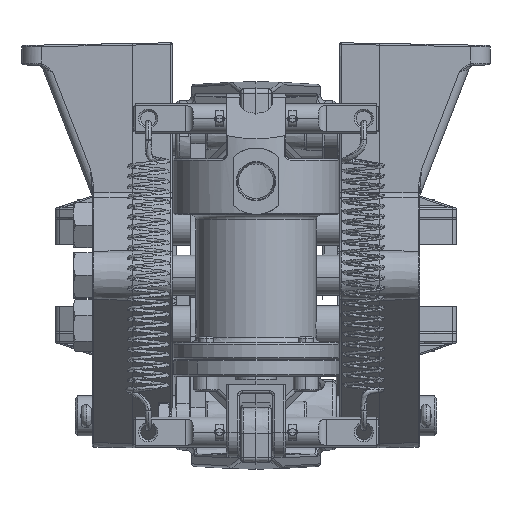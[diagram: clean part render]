
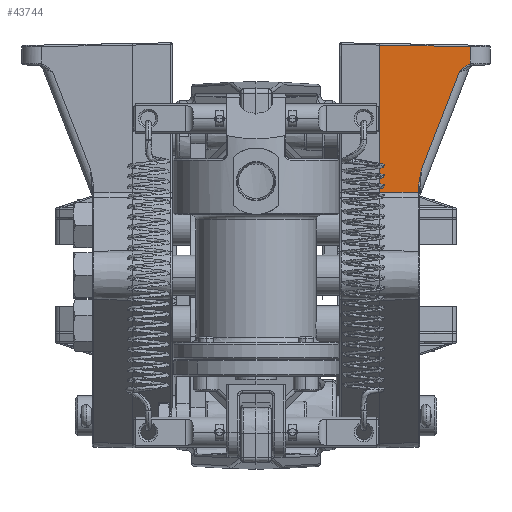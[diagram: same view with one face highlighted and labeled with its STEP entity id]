
A CAD part, left-side view. The second image highlights one B-rep face of the part: STEP entity #43744.
In plain terms, the highlighted planar face has unit normal (-1, -0.018, 0).
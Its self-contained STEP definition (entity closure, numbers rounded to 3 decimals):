
#966 = B_SPLINE_CURVE_WITH_KNOTS ( 'NONE', 3,
 ( #91661, #101147, #92825, #110582, #29286, #32805, #69024, #112355 ),
 .UNSPECIFIED., .F., .F.,
 ( 4, 2, 2, 4 ),
 ( 0., 0.003, 0.005, 0.006 ),
 .UNSPECIFIED. ) ;
#2469 = VERTEX_POINT ( 'NONE', #81757 ) ;
#7166 = DIRECTION ( 'NONE',  ( -0.006, 0.363, -0.932 ) ) ;
#9243 = PLANE ( 'NONE',  #82908 ) ;
#11640 = EDGE_CURVE ( 'NONE', #22992, #19752, #966, .T. ) ;
#13221 = B_SPLINE_CURVE_WITH_KNOTS ( 'NONE', 3,
 ( #86613, #105578, #87205, #77139, #60456, #69951, #13616, #96692, #52144, #33730 ),
 .UNSPECIFIED., .F., .F.,
 ( 4, 2, 2, 2, 4 ),
 ( 0., 0.001, 0.002, 0.003, 0.004 ),
 .UNSPECIFIED. ) ;
#13616 = CARTESIAN_POINT ( 'NONE',  ( -2.317, -2.577, 2.576 ) ) ;
#16887 = EDGE_CURVE ( 'NONE', #20709, #38375, #19789, .T. ) ;
#19752 = VERTEX_POINT ( 'NONE', #45975 ) ;
#19789 = LINE ( 'NONE', #93384, #75603 ) ;
#20709 = VERTEX_POINT ( 'NONE', #63730 ) ;
#20992 = LINE ( 'NONE', #66666, #26550 ) ;
#21475 = CARTESIAN_POINT ( 'NONE',  ( -2.335, -1.542, 1.039 ) ) ;
#21933 = EDGE_CURVE ( 'NONE', #19752, #2469, #20992, .T. ) ;
#22992 = VERTEX_POINT ( 'NONE', #31349 ) ;
#23110 = CARTESIAN_POINT ( 'NONE',  ( -2.335, -1.541, -19685.039 ) ) ;
#24069 = VERTEX_POINT ( 'NONE', #54394 ) ;
#26550 = VECTOR ( 'NONE', #102887, 39.37 ) ;
#27745 = CARTESIAN_POINT ( 'NONE',  ( -2.316, -2.671, 2.634 ) ) ;
#28093 = ORIENTED_EDGE ( 'NONE', *, *, #11640, .F. ) ;
#29202 = LINE ( 'NONE', #21475, #66120 ) ;
#29286 = CARTESIAN_POINT ( 'NONE',  ( -2.327, -2.029, 1.154 ) ) ;
#30093 = CARTESIAN_POINT ( 'NONE',  ( -2.316, -2.671, 2.852 ) ) ;
#31349 = CARTESIAN_POINT ( 'NONE',  ( -2.326, -2.061, 1.316 ) ) ;
#32805 = CARTESIAN_POINT ( 'NONE',  ( -2.327, -2.024, 1.114 ) ) ;
#33730 = CARTESIAN_POINT ( 'NONE',  ( -2.318, -2.537, 2.537 ) ) ;
#38375 = VERTEX_POINT ( 'NONE', #30093 ) ;
#38760 = VECTOR ( 'NONE', #77743, 39.37 ) ;
#39362 = DIRECTION ( 'NONE',  ( 0.017, -1., -0.017 ) ) ;
#41512 = LINE ( 'NONE', #23110, #38760 ) ;
#43744 = ADVANCED_FACE ( 'NONE', ( #63844 ), #9243, .T. ) ;
#44236 = CARTESIAN_POINT ( 'NONE',  ( -2.316, -2.671, 2.624 ) ) ;
#44432 = CARTESIAN_POINT ( 'NONE',  ( -2.335, -1.542, 1.039 ) ) ;
#44463 = VECTOR ( 'NONE', #105238, 39.37 ) ;
#44878 = DIRECTION ( 'NONE',  ( -1., -0.017, 0. ) ) ;
#45975 = CARTESIAN_POINT ( 'NONE',  ( -2.327, -2.022, 1.073 ) ) ;
#48208 = DIRECTION ( 'NONE',  ( -0.017, 1., 0.01 ) ) ;
#52144 = CARTESIAN_POINT ( 'NONE',  ( -2.318, -2.546, 2.547 ) ) ;
#54394 = CARTESIAN_POINT ( 'NONE',  ( -2.335, -1.542, 2.871 ) ) ;
#54586 = ORIENTED_EDGE ( 'NONE', *, *, #73881, .F. ) ;
#60456 = CARTESIAN_POINT ( 'NONE',  ( -2.317, -2.609, 2.603 ) ) ;
#61104 = ORIENTED_EDGE ( 'NONE', *, *, #89304, .F. ) ;
#63730 = CARTESIAN_POINT ( 'NONE',  ( -2.335, -1.542, 2.871 ) ) ;
#63844 = FACE_OUTER_BOUND ( 'NONE', #97625, .T. ) ;
#65956 = ORIENTED_EDGE ( 'NONE', *, *, #21933, .F. ) ;
#66120 = VECTOR ( 'NONE', #48208, 39.37 ) ;
#66666 = CARTESIAN_POINT ( 'NONE',  ( -2.327, -2.022, -19685.039 ) ) ;
#66835 = ORIENTED_EDGE ( 'NONE', *, *, #16887, .F. ) ;
#69024 = CARTESIAN_POINT ( 'NONE',  ( -2.327, -2.022, 1.093 ) ) ;
#69951 = CARTESIAN_POINT ( 'NONE',  ( -2.317, -2.587, 2.585 ) ) ;
#70973 = DIRECTION ( 'NONE',  ( -0.017, 1., 0. ) ) ;
#72159 = CARTESIAN_POINT ( 'NONE',  ( -2.335, -1.541, -19685.039 ) ) ;
#73881 = EDGE_CURVE ( 'NONE', #91248, #22992, #77874, .T. ) ;
#75576 = VECTOR ( 'NONE', #7166, 39.37 ) ;
#75603 = VECTOR ( 'NONE', #39362, 39.37 ) ;
#77139 = CARTESIAN_POINT ( 'NONE',  ( -2.316, -2.621, 2.611 ) ) ;
#77537 = EDGE_CURVE ( 'NONE', #2469, #83993, #29202, .T. ) ;
#77743 = DIRECTION ( 'NONE',  ( 0., 0., -1. ) ) ;
#77874 = LINE ( 'NONE', #114034, #75576 ) ;
#80454 = DIRECTION ( 'NONE',  ( 0., 0., -1. ) ) ;
#81757 = CARTESIAN_POINT ( 'NONE',  ( -2.327, -2.022, 1.034 ) ) ;
#82432 = ORIENTED_EDGE ( 'NONE', *, *, #116702, .T. ) ;
#82908 = AXIS2_PLACEMENT_3D ( 'NONE', #72159, #44878, #70973 ) ;
#83993 = VERTEX_POINT ( 'NONE', #44432 ) ;
#84543 = CARTESIAN_POINT ( 'NONE',  ( -2.318, -2.537, 2.537 ) ) ;
#85508 = VERTEX_POINT ( 'NONE', #27745 ) ;
#86598 = ORIENTED_EDGE ( 'NONE', *, *, #111584, .F. ) ;
#86613 = CARTESIAN_POINT ( 'NONE',  ( -2.316, -2.671, 2.634 ) ) ;
#87205 = CARTESIAN_POINT ( 'NONE',  ( -2.316, -2.645, 2.624 ) ) ;
#89304 = EDGE_CURVE ( 'NONE', #38375, #85508, #89357, .T. ) ;
#89357 = LINE ( 'NONE', #44236, #90923 ) ;
#90923 = VECTOR ( 'NONE', #80454, 39.37 ) ;
#91248 = VERTEX_POINT ( 'NONE', #84543 ) ;
#91661 = CARTESIAN_POINT ( 'NONE',  ( -2.326, -2.061, 1.316 ) ) ;
#92825 = CARTESIAN_POINT ( 'NONE',  ( -2.326, -2.044, 1.235 ) ) ;
#93384 = CARTESIAN_POINT ( 'NONE',  ( -2.316, -2.671, 2.852 ) ) ;
#95271 = ORIENTED_EDGE ( 'NONE', *, *, #116472, .T. ) ;
#96692 = CARTESIAN_POINT ( 'NONE',  ( -2.318, -2.556, 2.557 ) ) ;
#97507 = LINE ( 'NONE', #113536, #44463 ) ;
#97625 = EDGE_LOOP ( 'NONE', ( #61104, #66835, #95271, #82432, #110119, #65956, #28093, #54586, #86598 ) ) ;
#101147 = CARTESIAN_POINT ( 'NONE',  ( -2.326, -2.053, 1.275 ) ) ;
#102887 = DIRECTION ( 'NONE',  ( 0., 0., -1. ) ) ;
#105238 = DIRECTION ( 'NONE',  ( 0., 0., -1. ) ) ;
#105578 = CARTESIAN_POINT ( 'NONE',  ( -2.316, -2.657, 2.63 ) ) ;
#110119 = ORIENTED_EDGE ( 'NONE', *, *, #77537, .F. ) ;
#110582 = CARTESIAN_POINT ( 'NONE',  ( -2.327, -2.033, 1.175 ) ) ;
#111584 = EDGE_CURVE ( 'NONE', #85508, #91248, #13221, .T. ) ;
#112355 = CARTESIAN_POINT ( 'NONE',  ( -2.327, -2.022, 1.073 ) ) ;
#113536 = CARTESIAN_POINT ( 'NONE',  ( -2.335, -1.541, -19685.039 ) ) ;
#114034 = CARTESIAN_POINT ( 'NONE',  ( -2.328, -1.95, 1.03 ) ) ;
#116472 = EDGE_CURVE ( 'NONE', #20709, #24069, #41512, .T. ) ;
#116702 = EDGE_CURVE ( 'NONE', #24069, #83993, #97507, .T. ) ;
